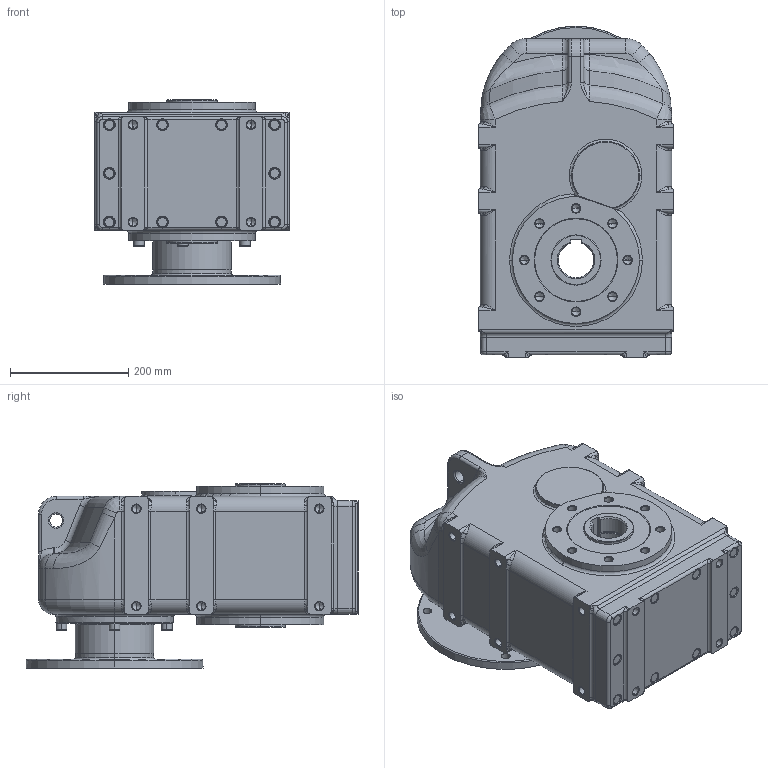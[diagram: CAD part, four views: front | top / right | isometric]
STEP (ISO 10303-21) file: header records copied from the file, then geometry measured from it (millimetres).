
FILE_DESCRIPTION (( 'STEP AP214' ), '1' );
FILE_NAME ('tnc52-f265-ap132.STEP', '2009-09-18T08:54:04', ( '' ), ( '' ), 'SwSTEP 2.0', 'SolidWorks 2003240', '' );
FILE_SCHEMA (( 'AUTOMOTIVE_DESIGN' ));
Products named in the file (4): N021143_Šroub s vnitøním šestihranem DIN 912 - M8 x 25; Pøíruba MRT150 kulatá _230-265-300; Skøíò TNC5_Skøíò TNC52 AP132; tnc52-f265-ap132
Assembly tree (8 placements, depth 2):
  tnc52-f265-ap132
    Skøíò TNC5_Skøíò TNC52 AP132
    N021143_Šroub s vnitøním šestihranem DIN 912 - M8 x 25  x6
    Pøíruba MRT150 kulatá _230-265-300
Bounding box: 330 x 562.5 x 312 mm (x, y, z)
Volume: 34161499.5 mm3; surface area: 995732.9 mm2
Topology: 8 solids, 8 shells, 988 faces, 2276 edges, 1283 vertices
Faces by surface type: cylinder 312, cone 256, plane 187, torus 152, bspline 81
Entity records: 113658 total; most frequent: CARTESIAN_POINT 93380, DIRECTION 4345, ORIENTED_EDGE 3852, EDGE_CURVE 1926, AXIS2_PLACEMENT_3D 1812, VERTEX_POINT 1153, CIRCLE 1024, EDGE_LOOP 963
